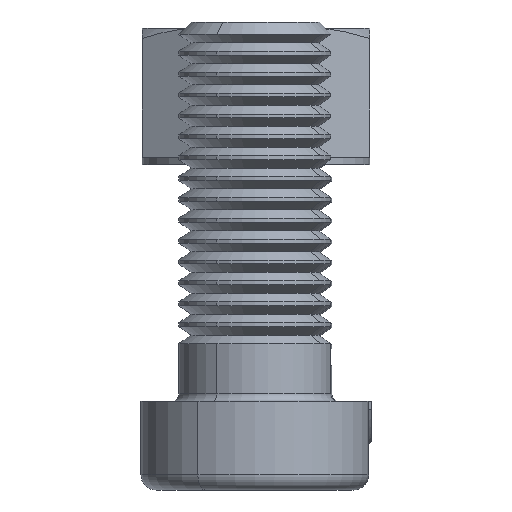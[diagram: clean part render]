
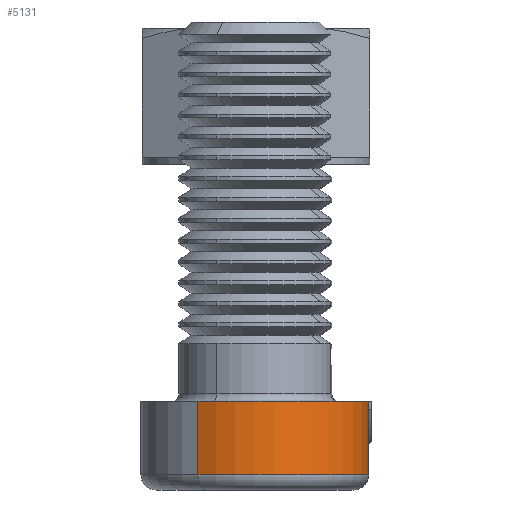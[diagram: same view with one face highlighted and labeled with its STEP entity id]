
A CAD part, front view. The second image highlights one B-rep face of the part: STEP entity #5131.
In plain terms, the highlighted cylindrical face has radius 9 mm (diameter 18 mm), a partial arc.
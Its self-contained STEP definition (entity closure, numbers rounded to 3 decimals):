
#122 = DIRECTION ( 'NONE',  ( 1., 0., 0. ) ) ;
#720 = EDGE_CURVE ( 'NONE', #6916, #2209, #6399, .T. ) ;
#758 = AXIS2_PLACEMENT_3D ( 'NONE', #3469, #122, #6120 ) ;
#1125 = DIRECTION ( 'NONE',  ( -1., 0., 0. ) ) ;
#1285 = FACE_OUTER_BOUND ( 'NONE', #5933, .T. ) ;
#1588 = CARTESIAN_POINT ( 'NONE',  ( -31.75, 0., -9. ) ) ;
#1664 = CARTESIAN_POINT ( 'NONE',  ( 7., 0., -9. ) ) ;
#1852 = ORIENTED_EDGE ( 'NONE', *, *, #2866, .T. ) ;
#1945 = LINE ( 'NONE', #1588, #2267 ) ;
#2209 = VERTEX_POINT ( 'NONE', #3182 ) ;
#2267 = VECTOR ( 'NONE', #3322, 1000. ) ;
#2273 = EDGE_CURVE ( 'NONE', #2209, #6694, #8475, .T. ) ;
#2469 = EDGE_CURVE ( 'NONE', #6916, #4466, #1945, .T. ) ;
#2526 = CARTESIAN_POINT ( 'NONE',  ( -31.75, 0., 9. ) ) ;
#2866 = EDGE_CURVE ( 'NONE', #6694, #4466, #7283, .T. ) ;
#2934 = ORIENTED_EDGE ( 'NONE', *, *, #2273, .T. ) ;
#3164 = CARTESIAN_POINT ( 'NONE',  ( -31.75, 0., 0. ) ) ;
#3182 = CARTESIAN_POINT ( 'NONE',  ( 7., 0., 9. ) ) ;
#3322 = DIRECTION ( 'NONE',  ( -1., 0., 0. ) ) ;
#3469 = CARTESIAN_POINT ( 'NONE',  ( 1.2, 0., 0. ) ) ;
#4008 = CYLINDRICAL_SURFACE ( 'NONE', #4602, 9. ) ;
#4466 = VERTEX_POINT ( 'NONE', #6229 ) ;
#4602 = AXIS2_PLACEMENT_3D ( 'NONE', #3164, #5868, #7294 ) ;
#5032 = ORIENTED_EDGE ( 'NONE', *, *, #720, .T. ) ;
#5131 = ADVANCED_FACE ( 'NONE', ( #1285 ), #4008, .T. ) ;
#5138 = CARTESIAN_POINT ( 'NONE',  ( 7., 0., 0. ) ) ;
#5868 = DIRECTION ( 'NONE',  ( -1., 0., 0. ) ) ;
#5933 = EDGE_LOOP ( 'NONE', ( #7363, #5032, #2934, #1852 ) ) ;
#6120 = DIRECTION ( 'NONE',  ( 0., 0., 1. ) ) ;
#6229 = CARTESIAN_POINT ( 'NONE',  ( 1.2, 0., -9. ) ) ;
#6399 = CIRCLE ( 'NONE', #7493, 9. ) ;
#6694 = VERTEX_POINT ( 'NONE', #7370 ) ;
#6916 = VERTEX_POINT ( 'NONE', #1664 ) ;
#7283 = CIRCLE ( 'NONE', #758, 9. ) ;
#7294 = DIRECTION ( 'NONE',  ( 0., 0., 1. ) ) ;
#7363 = ORIENTED_EDGE ( 'NONE', *, *, #2469, .F. ) ;
#7370 = CARTESIAN_POINT ( 'NONE',  ( 1.2, 0., 9. ) ) ;
#7493 = AXIS2_PLACEMENT_3D ( 'NONE', #5138, #1125, #8341 ) ;
#8091 = VECTOR ( 'NONE', #8565, 1000. ) ;
#8341 = DIRECTION ( 'NONE',  ( 0., 0., 1. ) ) ;
#8475 = LINE ( 'NONE', #2526, #8091 ) ;
#8565 = DIRECTION ( 'NONE',  ( -1., 0., 0. ) ) ;
